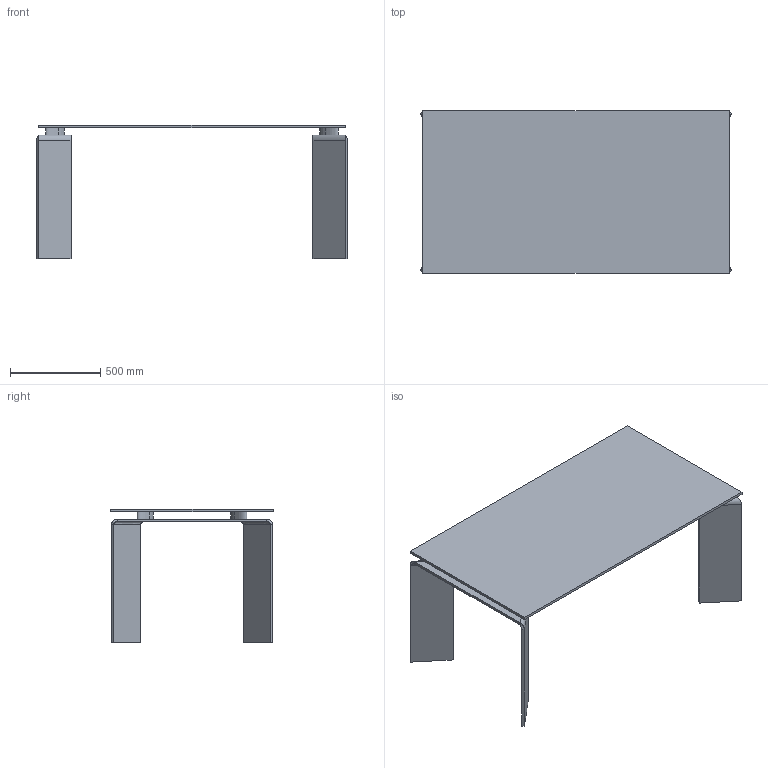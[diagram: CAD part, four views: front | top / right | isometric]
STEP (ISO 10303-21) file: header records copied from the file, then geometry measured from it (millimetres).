
FILE_DESCRIPTION(/* description */ (''),/* implementation_level */ '2;1');
FILE_NAME(/* name */ '1701 - Ray 170x90',/* time_stamp */ '2010-12-14T09:40:39+01:00',/* author */ (''),/* organization */ (''),/* preprocessor_version */ 'ST-DEVELOPER v10',/* originating_system */ '',/* authorisation */ '');
FILE_SCHEMA (('CONFIG_CONTROL_DESIGN'));
Length unit declared in the file: centimetre
Products named in the file (1): 1
Bounding box: 1719.21 x 900 x 740 mm (x, y, z)
Volume: 37042681.7 mm3; surface area: 5135964.4 mm2
Topology: 7 solids, 7 shells, 66 faces, 124 edges, 72 vertices
Faces by surface type: plane 38, bspline 28
Entity records: 2182 total; most frequent: CARTESIAN_POINT 1226, ORIENTED_EDGE 248, EDGE_CURVE 124, B_SPLINE_CURVE_WITH_KNOTS 88, VERTEX_POINT 72, ADVANCED_FACE 66, FACE_OUTER_BOUND 66, EDGE_LOOP 66
